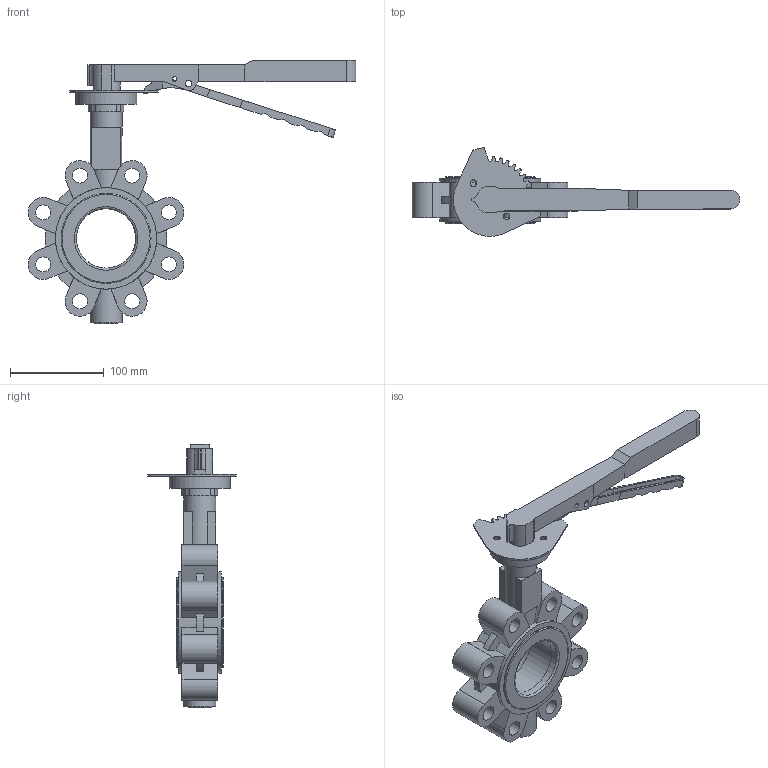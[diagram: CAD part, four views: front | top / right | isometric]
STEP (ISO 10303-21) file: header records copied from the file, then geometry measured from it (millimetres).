
FILE_DESCRIPTION (( 'STEP AP203' ), '1' );
FILE_NAME ('2502 LT型中线衬胶带销 手柄蝶阀 DN65 PN25 CD0309069.STEP', '2026-04-13T01:50:21', ( '' ), ( '' ), 'SwSTEP 2.0', 'SolidWorks 2018', '' );
FILE_SCHEMA (( 'CONFIG_CONTROL_DESIGN' ));
Length unit declared in the file: millimetre
Products named in the file (8): GALA-D65-01LC25-00; YH-D50-80-06Y-01 DN40-DN80 喘攫; 2502 LT型中线衬胶带销 手柄蝶阀 DN65 PN25 CD0309069; 新型玛钢手柄副手柄(长)-DN50-DN80-9004; DIN908 塞堵M20×1.5; 新型玛钢手柄主手柄(长)-DN50-DN80-立方9-9004; GALA-D65-04AZC-00; 新型玛钢手柄装配体-DN50-DN80-立方11-9004
Assembly tree (7 placements, depth 3):
  2502 LT型中线衬胶带销 手柄蝶阀 DN65 PN25 CD0309069
    GALA-D65-01LC25-00
    GALA-D65-04AZC-00
    DIN908 塞堵M20×1.5
    YH-D50-80-06Y-01 DN40-DN80 喘攫
    新型玛钢手柄装配体-DN50-DN80-立方11-9004
      新型玛钢手柄副手柄(长)-DN50-DN80-9004
      新型玛钢手柄主手柄(长)-DN50-DN80-立方9-9004
Bounding box: 349.14 x 94.53 x 281 mm (x, y, z)
Volume: 785523.7 mm3; surface area: 197249.6 mm2
Topology: 6 solids, 6 shells, 324 faces, 897 edges, 589 vertices
Faces by surface type: plane 166, cylinder 144, torus 8, cone 6
Full cylindrical faces by diameter (mm): 5 x4, 7 x10, 16 x8, 20 x1, 25 x2, 27 x1, 34 x2, 63.267 x1, 65 x1, 72 x2, 96 x4, 108 x2
Entity records: 11177 total; most frequent: CARTESIAN_POINT 1987, DIRECTION 1801, ORIENTED_EDGE 1670, EDGE_CURVE 835, AXIS2_PLACEMENT_3D 659, VERTEX_POINT 579, LINE 483, VECTOR 483
